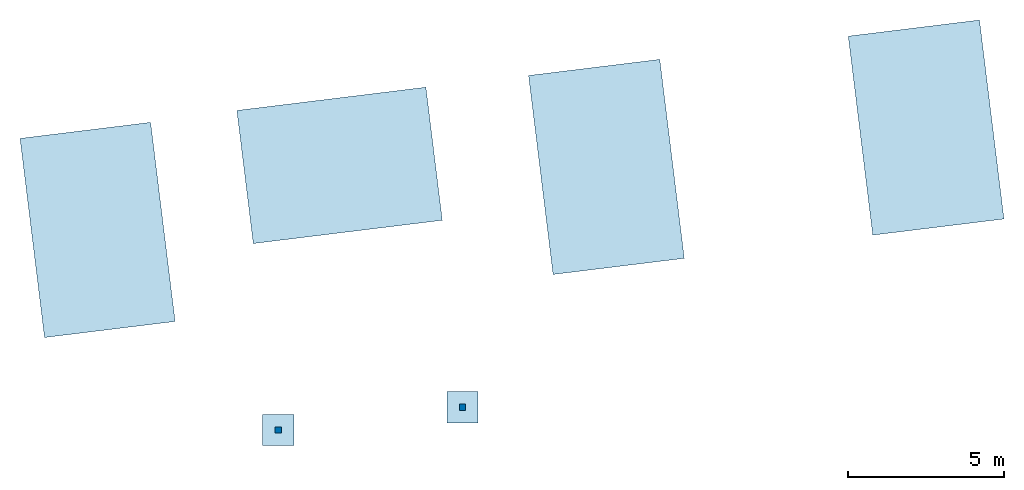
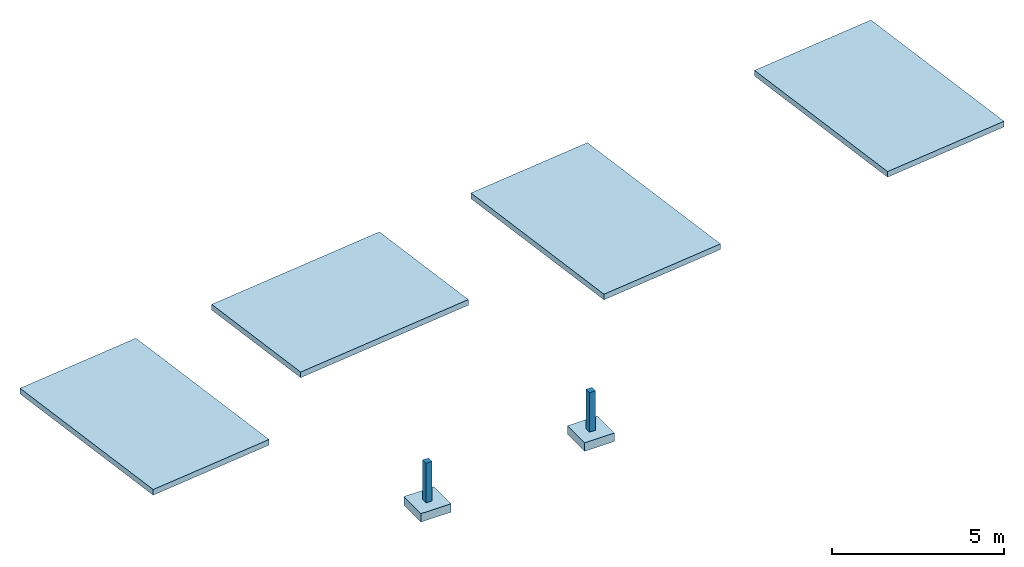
# One storey: 4 slabs, 2 columns, 2 footings.
"""IFC2X3 building model written with IfcOpenShell, lengths in millimetres."""

from ifc_helpers import new_model, entity, si_unit, converted_unit, direction, origin, origin_with_axes, place, context, project, spatial, faceted_brep, element, save


model = new_model("IFC2X3")

# Units and contexts
model_context = context("Model", 3, precision=1e-05, world=origin(), true_north=direction((0.0, 1.0, 0.0)))
ifc_project = project(units=[si_unit("LENGTHUNIT", "METRE", prefix="MILLI"), si_unit("AREAUNIT", "SQUARE_METRE"), si_unit("VOLUMEUNIT", "CUBIC_METRE"), converted_unit("PLANEANGLEUNIT", "DEGREE", entity("IfcPlaneAngleMeasure", 0.01745), si_unit("PLANEANGLEUNIT", "RADIAN"), dimensions=[0, 0, 0, 0, 0, 0, 0]), si_unit("SOLIDANGLEUNIT", "STERADIAN"), si_unit("MASSUNIT", "GRAM"), si_unit("TIMEUNIT", "SECOND"), si_unit("THERMODYNAMICTEMPERATUREUNIT", "DEGREE_CELSIUS"), si_unit("LUMINOUSINTENSITYUNIT", "LUMEN")], contexts=[model_context])

# Site, building, storey
site_placement = place(None, origin_with_axes())
site = spatial("IfcSite", under=ifc_project, at=site_placement, Name="Default Site", CompositionType="ELEMENT")
building_placement = place(site_placement, origin_with_axes())
building = spatial("IfcBuilding", under=site, at=building_placement, Name="Default Building", CompositionType="ELEMENT")
storey_placement = place(building_placement, origin_with_axes())
storey = spatial("IfcBuildingStorey", under=building, at=storey_placement, Name="Fundação", CompositionType="ELEMENT", Elevation=0.0)

# Footings
footing_1_placement = place(storey_placement, origin_with_axes())
element("IfcFooting", 1, at=footing_1_placement, inside=storey, Name="IfcFooting - IfcFooting - P1 (100 x 100 x 30)", context=model_context, shape_type="Brep", body=[
    faceted_brep([(-11191.76159742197, 22455.36757570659, -3799.999988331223), (-11191.76159742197, 23455.36757570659, -3799.999988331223), (-11191.76159742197, 23455.36757570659, -4100.000000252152), (-11191.76159742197, 22455.36757570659, -4100.000000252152), (-10191.76159742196, 23455.36757570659, -3799.999988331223), (-10191.76159742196, 23455.36757570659, -4100.000000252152), (-10191.76159742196, 22455.36757570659, -3799.999988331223), (-10191.76159742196, 22455.36757570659, -4100.000000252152)], [[[0, 1, 2]], [[0, 2, 3]], [[1, 4, 5]], [[1, 5, 2]], [[4, 6, 7]], [[4, 7, 5]], [[6, 0, 3]], [[6, 3, 7]], [[2, 5, 7]], [[2, 7, 3]], [[0, 6, 4]], [[0, 4, 1]]]),
])
footing_2_placement = place(storey_placement, origin_with_axes())
element("IfcFooting", 2, at=footing_2_placement, inside=storey, Name="IfcFooting - IfcFooting - P2 (100 x 100 x 30)", context=model_context, shape_type="Brep", body=[
    faceted_brep([(-5289.610567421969, 23182.2309357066, -3799.999988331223), (-5289.610567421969, 24182.2309357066, -3799.999988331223), (-5289.610567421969, 24182.2309357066, -4100.000000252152), (-5289.610567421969, 23182.2309357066, -4100.000000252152), (-4289.610567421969, 24182.2309357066, -3799.999988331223), (-4289.610567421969, 24182.2309357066, -4100.000000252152), (-4289.610567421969, 23182.2309357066, -3799.999988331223), (-4289.610567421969, 23182.2309357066, -4100.000000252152)], [[[0, 1, 2]], [[0, 2, 3]], [[1, 4, 5]], [[1, 5, 2]], [[4, 6, 7]], [[4, 7, 5]], [[6, 0, 3]], [[6, 3, 7]], [[2, 5, 7]], [[2, 7, 3]], [[0, 6, 4]], [[0, 4, 1]]]),
])

# Columns
column_1_placement = place(storey_placement, origin_with_axes())
element("IfcColumn", 3, at=column_1_placement, inside=storey, Name="IfcColumn - IfcColumn - P1 (20x20)", context=model_context, shape_type="Brep", body=[
    faceted_brep([(-10791.76159891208, 22855.36757421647, -2400.00003005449), (-10791.76159891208, 23055.36757719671, -2400.00003005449), (-10791.76159891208, 23055.36757719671, -3800.000006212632), (-10791.76159891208, 22855.36757421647, -3800.000006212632), (-10591.76159593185, 23055.36757719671, -2400.00003005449), (-10591.76159593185, 23055.36757719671, -3800.000006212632), (-10591.76159593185, 22855.36757421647, -2400.00003005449), (-10591.76159593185, 22855.36757421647, -3800.000006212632)], [[[0, 1, 2]], [[0, 2, 3]], [[1, 4, 5]], [[1, 5, 2]], [[4, 6, 7]], [[4, 7, 5]], [[6, 0, 3]], [[6, 3, 7]], [[2, 5, 7]], [[2, 7, 3]], [[0, 6, 4]], [[0, 4, 1]]]),
])
column_2_placement = place(storey_placement, origin_with_axes())
element("IfcColumn", 4, at=column_2_placement, inside=storey, Name="IfcColumn - IfcColumn - P2 (20x20)", context=model_context, shape_type="Brep", body=[
    faceted_brep([(-4889.610568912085, 23582.23093421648, -2400.00003005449), (-4889.610568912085, 23782.23093719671, -2400.00003005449), (-4889.610568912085, 23782.23093719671, -3800.000006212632), (-4889.610568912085, 23582.23093421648, -3800.000006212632), (-4689.610565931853, 23782.23093719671, -2400.00003005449), (-4689.610565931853, 23782.23093719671, -3800.000006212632), (-4689.610565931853, 23582.23093421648, -2400.00003005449), (-4689.610565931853, 23582.23093421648, -3800.000006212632)], [[[0, 1, 2]], [[0, 2, 3]], [[1, 4, 5]], [[1, 5, 2]], [[4, 6, 7]], [[4, 7, 5]], [[6, 0, 3]], [[6, 3, 7]], [[2, 5, 7]], [[2, 7, 3]], [[0, 6, 4]], [[0, 4, 1]]]),
])

# Slabs
slab_1_placement = place(storey_placement, origin_with_axes())
element("IfcSlab", 5, at=slab_1_placement, inside=storey, Name="IfcSlab - IfcSlab - Pano 2 (20 cm)", context=model_context, shape_type="Brep", body=[
    faceted_brep([(-14778.98877926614, 32808.32498618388, -2600.000000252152), (-13994.15952034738, 26431.43957206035, -2600.000000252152), (-13994.15952034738, 26431.43957206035, -2800.000003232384), (-14778.98877926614, 32808.32498618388, -2800.000003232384), (-18177.12229557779, 25916.6251952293, -2600.000000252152), (-18177.12229557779, 25916.6251952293, -2800.000003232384), (-18961.95155449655, 32293.51060935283, -2600.000000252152), (-18961.95155449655, 32293.51060935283, -2800.000003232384)], [[[0, 1, 2]], [[0, 2, 3]], [[1, 4, 5]], [[1, 5, 2]], [[4, 6, 7]], [[4, 7, 5]], [[6, 0, 3]], [[6, 3, 7]], [[2, 5, 7]], [[2, 7, 3]], [[0, 6, 4]], [[0, 4, 1]]]),
])
slab_2_placement = place(storey_placement, origin_with_axes())
element("IfcSlab", 6, at=slab_2_placement, inside=storey, Name="IfcSlab - IfcSlab - Pano 3 (20 cm)", context=model_context, shape_type="Brep", body=[
    faceted_brep([(-5963.859545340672, 33933.54074867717, -2600.000000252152), (-5439.273106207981, 29671.17707642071, -2600.000000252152), (-5439.273106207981, 29671.17707642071, -2800.000003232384), (-5963.859545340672, 33933.54074867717, -2800.000003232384), (-11493.59224950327, 28926.04725273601, -2600.000000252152), (-11493.59224950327, 28926.04725273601, -2800.000003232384), (-12018.17868863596, 33188.41092499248, -2600.000000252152), (-12018.17868863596, 33188.41092499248, -2800.000003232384)], [[[0, 1, 2]], [[0, 2, 3]], [[1, 4, 5]], [[1, 5, 2]], [[4, 6, 7]], [[4, 7, 5]], [[6, 0, 3]], [[6, 3, 7]], [[2, 5, 7]], [[2, 7, 3]], [[0, 6, 4]], [[0, 4, 1]]]),
])
slab_3_placement = place(storey_placement, origin_with_axes())
element("IfcSlab", 7, at=slab_3_placement, inside=storey, Name="IfcSlab - IfcSlab - Pano 4 (20 cm)", context=model_context, shape_type="Brep", body=[
    faceted_brep([(1525.542412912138, 34825.06575550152, -2600.000000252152), (2309.760962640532, 28453.1427856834, -2600.000000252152), (2309.760962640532, 28453.1427856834, -2800.000003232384), (1525.542412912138, 34825.06575550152, -2800.000003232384), (-1893.569315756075, 27935.82167591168, -2600.000000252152), (-1893.569315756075, 27935.82167591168, -2800.000003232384), (-2677.787865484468, 34307.74464572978, -2600.000000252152), (-2677.787865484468, 34307.74464572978, -2800.000003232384)], [[[0, 1, 2]], [[0, 2, 3]], [[1, 4, 5]], [[1, 5, 2]], [[4, 6, 7]], [[4, 7, 5]], [[6, 0, 3]], [[6, 3, 7]], [[2, 5, 7]], [[2, 7, 3]], [[0, 6, 4]], [[0, 4, 1]]]),
])
slab_4_placement = place(storey_placement, origin_with_axes())
element("IfcSlab", 8, at=slab_4_placement, inside=storey, Name="IfcSlab - IfcSlab - Pano 5 (20 cm)", context=model_context, shape_type="Brep", body=[
    faceted_brep([(11762.82444841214, 36085.00987050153, -2600.000000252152), (12547.04299814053, 29713.08690068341, -2600.000000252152), (12547.04299814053, 29713.08690068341, -2800.000003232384), (11762.82444841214, 36085.00987050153, -2800.000003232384), (8343.712719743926, 29195.76579091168, -2600.000000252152), (8343.712719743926, 29195.76579091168, -2800.000003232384), (7559.494170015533, 35567.68876072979, -2600.000000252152), (7559.494170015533, 35567.68876072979, -2800.000003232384)], [[[0, 1, 2]], [[0, 2, 3]], [[1, 4, 5]], [[1, 5, 2]], [[4, 6, 7]], [[4, 7, 5]], [[6, 0, 3]], [[6, 3, 7]], [[2, 5, 7]], [[2, 7, 3]], [[0, 6, 4]], [[0, 4, 1]]]),
])

save(model, "model.ifc")
